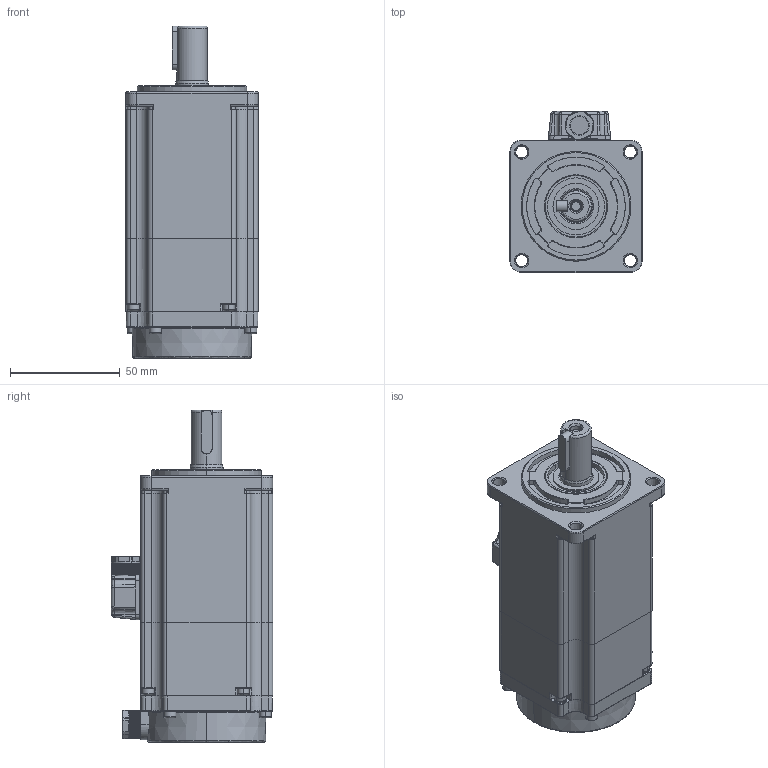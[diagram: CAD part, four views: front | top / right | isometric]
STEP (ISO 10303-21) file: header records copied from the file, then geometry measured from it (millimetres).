
FILE_DESCRIPTION (( 'STEP AP203' ), '1' );
FILE_NAME ('G3系列60ST-400W刹车电机三维图.STEP', '2023-09-27T05:26:31', ( '微软用户' ), ( '微软中国' ), 'SwSTEP 2.0', 'SolidWorks 2016', '' );
FILE_SCHEMA (( 'CONFIG_CONTROL_DESIGN' ));
Products named in the file (1): G3系列60ST-400W刹车电机三维图
Bounding box: 60.2 x 73.5 x 151.3 mm (x, y, z)
Volume: 236033.8 mm3; surface area: 193737 mm2
Topology: 78 solids, 78 shells, 6491 faces, 16348 edges, 10150 vertices
Faces by surface type: plane 4461, cylinder 1196, cone 523, bspline 207, torus 96, sphere 8
Entity records: 196047 total; most frequent: CARTESIAN_POINT 41549, ORIENTED_EDGE 32648, DIRECTION 31283, EDGE_CURVE 16324, VECTOR 11771, LINE 11771, VERTEX_POINT 10150, AXIS2_PLACEMENT_3D 9756
